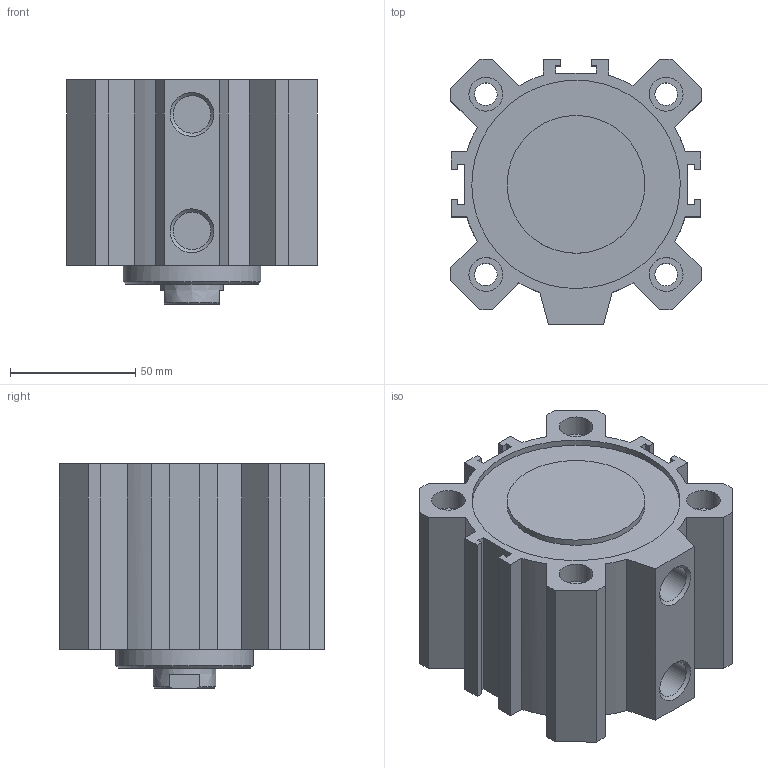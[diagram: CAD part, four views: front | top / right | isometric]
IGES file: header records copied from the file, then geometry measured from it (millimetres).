
Global section: file name: 1511_80_0025; native system: Autodesk Inventor 2014; preprocessor: unknown; author: A. Manieri; date: 20160824.142136; units: millimetre
Bounding box: 100 x 106 x 89.5 mm (x, y, z)
Volume: 492473.4 mm3; surface area: 110125.1 mm2
Topology: 2 solids, 2 shells, 119 faces, 307 edges, 210 vertices
Faces by surface type: bspline 119
